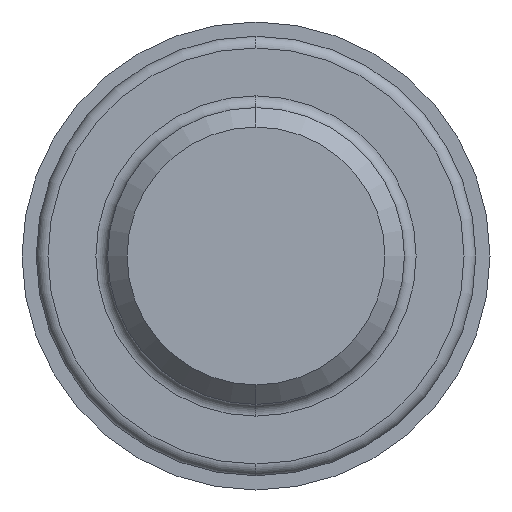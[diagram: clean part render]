
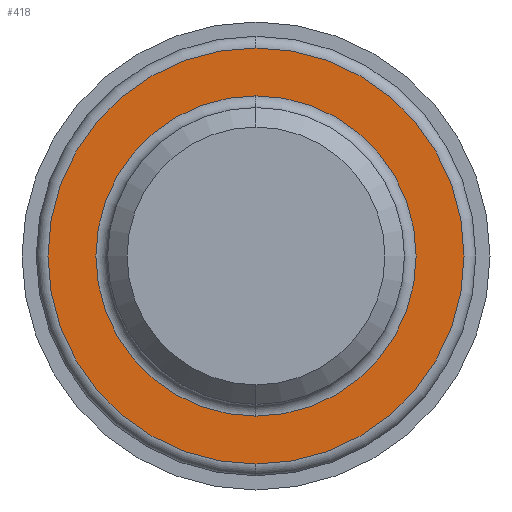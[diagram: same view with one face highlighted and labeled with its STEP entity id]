
A CAD part, left-side view. The second image highlights one B-rep face of the part: STEP entity #418.
In plain terms, the highlighted planar face has unit normal (-1, 0, 0).
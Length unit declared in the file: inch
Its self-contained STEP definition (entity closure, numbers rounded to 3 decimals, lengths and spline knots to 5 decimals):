
#10 = CARTESIAN_POINT ( 'NONE',  ( 2.125, 0.41, 0. ) ) ;
#15 = AXIS2_PLACEMENT_3D ( 'NONE', #87, #275, #578 ) ;
#43 = CARTESIAN_POINT ( 'NONE',  ( 2.125, 0., -0.41 ) ) ;
#44 = VERTEX_POINT ( 'NONE', #360 ) ;
#49 = EDGE_CURVE ( 'NONE', #44, #462, #492, .T. ) ;
#57 = DIRECTION ( 'NONE',  ( -1., 0., 0. ) ) ;
#69 = FACE_OUTER_BOUND ( 'NONE', #195, .T. ) ;
#73 = DIRECTION ( 'NONE',  ( -1., 0., 0. ) ) ;
#87 = CARTESIAN_POINT ( 'NONE',  ( 2.125, 0., 0. ) ) ;
#92 = CIRCLE ( 'NONE', #15, 0.41 ) ;
#107 = ORIENTED_EDGE ( 'NONE', *, *, #49, .T. ) ;
#114 = ORIENTED_EDGE ( 'NONE', *, *, #527, .F. ) ;
#151 = ORIENTED_EDGE ( 'NONE', *, *, #561, .F. ) ;
#160 = DIRECTION ( 'NONE',  ( 0., 0., 1. ) ) ;
#168 = AXIS2_PLACEMENT_3D ( 'NONE', #393, #57, #246 ) ;
#195 = EDGE_LOOP ( 'NONE', ( #107, #396 ) ) ;
#209 = DIRECTION ( 'NONE',  ( 0., 0., 1. ) ) ;
#245 = VERTEX_POINT ( 'NONE', #43 ) ;
#246 = DIRECTION ( 'NONE',  ( 0., 0., 1. ) ) ;
#249 = CIRCLE ( 'NONE', #551, 0.41 ) ;
#251 = CIRCLE ( 'NONE', #168, 0.5325 ) ;
#254 = DIRECTION ( 'NONE',  ( 1., 0., 0. ) ) ;
#265 = EDGE_CURVE ( 'NONE', #462, #44, #251, .T. ) ;
#275 = DIRECTION ( 'NONE',  ( -1., 0., 0. ) ) ;
#311 = CARTESIAN_POINT ( 'NONE',  ( 2.125, 0., 0.41 ) ) ;
#350 = EDGE_LOOP ( 'NONE', ( #151, #114 ) ) ;
#360 = CARTESIAN_POINT ( 'NONE',  ( 2.125, 0., 0.5325 ) ) ;
#365 = AXIS2_PLACEMENT_3D ( 'NONE', #10, #254, #408 ) ;
#393 = CARTESIAN_POINT ( 'NONE',  ( 2.125, 0., 0. ) ) ;
#394 = VERTEX_POINT ( 'NONE', #311 ) ;
#396 = ORIENTED_EDGE ( 'NONE', *, *, #265, .T. ) ;
#408 = DIRECTION ( 'NONE',  ( 0., 0., -1. ) ) ;
#416 = DIRECTION ( 'NONE',  ( -1., 0., 0. ) ) ;
#418 = ADVANCED_FACE ( 'NONE', ( #419, #69 ), #612, .F. ) ;
#419 = FACE_BOUND ( 'NONE', #350, .T. ) ;
#456 = AXIS2_PLACEMENT_3D ( 'NONE', #555, #73, #209 ) ;
#462 = VERTEX_POINT ( 'NONE', #601 ) ;
#492 = CIRCLE ( 'NONE', #456, 0.5325 ) ;
#516 = CARTESIAN_POINT ( 'NONE',  ( 2.125, 0., 0. ) ) ;
#527 = EDGE_CURVE ( 'NONE', #245, #394, #92, .T. ) ;
#551 = AXIS2_PLACEMENT_3D ( 'NONE', #516, #416, #160 ) ;
#555 = CARTESIAN_POINT ( 'NONE',  ( 2.125, 0., 0. ) ) ;
#561 = EDGE_CURVE ( 'NONE', #394, #245, #249, .T. ) ;
#578 = DIRECTION ( 'NONE',  ( 0., 0., 1. ) ) ;
#601 = CARTESIAN_POINT ( 'NONE',  ( 2.125, 0., -0.5325 ) ) ;
#612 = PLANE ( 'NONE',  #365 ) ;
